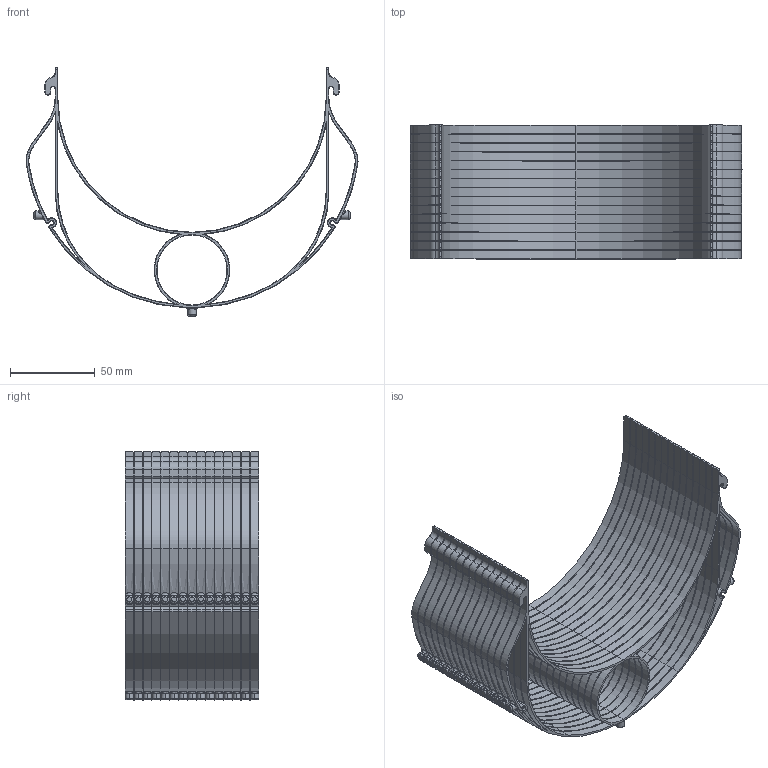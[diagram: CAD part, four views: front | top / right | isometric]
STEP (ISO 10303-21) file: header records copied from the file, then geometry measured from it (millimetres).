
FILE_DESCRIPTION (( 'STEP AP214' ), '1' );
FILE_NAME ('GRENG MVP Face Shield v1 - Stacked.STEP', '2020-03-31T22:30:38', ( '' ), ( '' ), 'SwSTEP 2.0', 'SolidWorks 2015', '' );
FILE_SCHEMA (( 'AUTOMOTIVE_DESIGN' ));
Length unit declared in the file: millimetre
Products named in the file (1): GRENG MVP Face Shield v1 - Stacked
Bounding box: 195.94 x 78.92 x 146.85 mm (x, y, z)
Volume: 105929.9 mm3; surface area: 241544 mm2
Topology: 29 solids, 29 shells, 2981 faces, 8589 edges, 5486 vertices
Faces by surface type: cylinder 1812, plane 693, bspline 386, torus 90
Entity records: 118619 total; most frequent: CARTESIAN_POINT 39545, DIRECTION 16993, ORIENTED_EDGE 16818, EDGE_CURVE 8409, AXIS2_PLACEMENT_3D 6670, VERTEX_POINT 5486, CIRCLE 4074, VECTOR 3653
